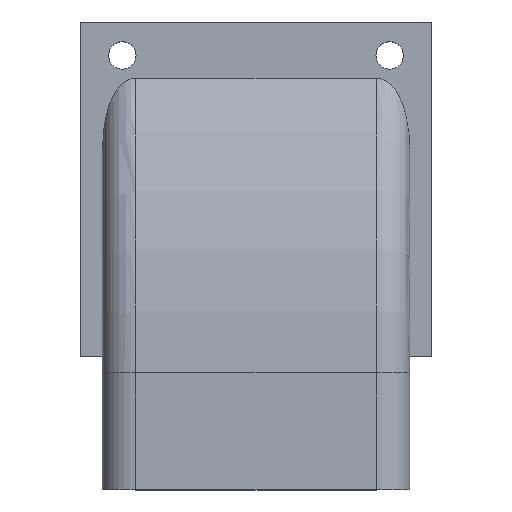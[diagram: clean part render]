
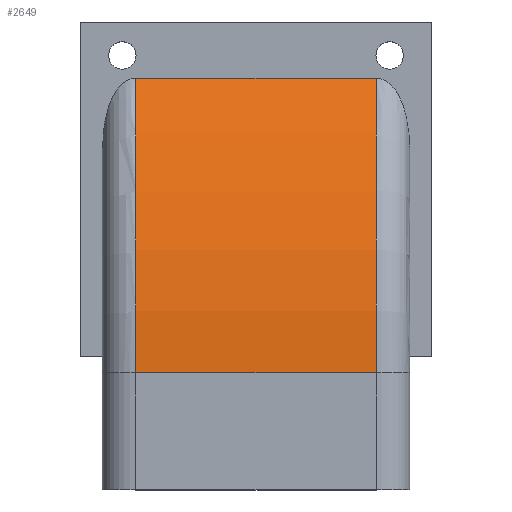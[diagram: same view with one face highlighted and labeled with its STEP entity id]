
A CAD part, top view. The second image highlights one B-rep face of the part: STEP entity #2649.
In plain terms, the highlighted cylindrical face has radius 87.028 mm (diameter 174.056 mm), a partial arc.
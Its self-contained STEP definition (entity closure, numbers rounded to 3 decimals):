
#90=CYLINDRICAL_SURFACE('',#2902,87.028);
#274=FACE_OUTER_BOUND('',#422,.T.);
#422=EDGE_LOOP('',(#2329,#2330,#2331,#2332));
#666=LINE('',#4360,#905);
#680=LINE('',#4437,#919);
#905=VECTOR('',#3543,10.);
#919=VECTOR('',#3583,10.);
#1009=CIRCLE('',#2901,87.028);
#1010=CIRCLE('',#2903,87.028);
#1242=VERTEX_POINT('',#4355);
#1243=VERTEX_POINT('',#4359);
#1258=VERTEX_POINT('',#4435);
#1259=VERTEX_POINT('',#4436);
#1600=EDGE_CURVE('',#1243,#1242,#666,.T.);
#1623=EDGE_CURVE('',#1258,#1259,#680,.T.);
#1631=EDGE_CURVE('',#1258,#1242,#1009,.T.);
#1632=EDGE_CURVE('',#1243,#1259,#1010,.T.);
#2329=ORIENTED_EDGE('',*,*,#1623,.T.);
#2330=ORIENTED_EDGE('',*,*,#1632,.F.);
#2331=ORIENTED_EDGE('',*,*,#1600,.T.);
#2332=ORIENTED_EDGE('',*,*,#1631,.F.);
#2649=ADVANCED_FACE('',(#274),#90,.T.);
#2901=AXIS2_PLACEMENT_3D('',#4484,#3593,#3594);
#2902=AXIS2_PLACEMENT_3D('',#4485,#3595,#3596);
#2903=AXIS2_PLACEMENT_3D('',#4486,#3597,#3598);
#3543=DIRECTION('',(1.,0.,0.));
#3583=DIRECTION('',(-1.,0.,0.));
#3593=DIRECTION('center_axis',(1.,0.,0.));
#3594=DIRECTION('ref_axis',(0.,0.322,0.947));
#3595=DIRECTION('center_axis',(-1.,0.,0.));
#3596=DIRECTION('ref_axis',(0.,0.609,0.793));
#3597=DIRECTION('center_axis',(-1.,0.,0.));
#3598=DIRECTION('ref_axis',(0.,0.322,0.947));
#4355=CARTESIAN_POINT('',(17.726,-257.3,80.084));
#4359=CARTESIAN_POINT('',(-18.274,-257.3,80.084));
#4360=CARTESIAN_POINT('',(-7.776,-257.3,80.084));
#4435=CARTESIAN_POINT('',(17.726,-213.202,68.084));
#4436=CARTESIAN_POINT('',(-18.274,-213.202,68.084));
#4437=CARTESIAN_POINT('',(22.726,-213.202,68.084));
#4484=CARTESIAN_POINT('Origin',(17.726,-257.3,-6.944));
#4485=CARTESIAN_POINT('Origin',(22.726,-257.3,-6.944));
#4486=CARTESIAN_POINT('Origin',(-18.274,-257.3,-6.944));
